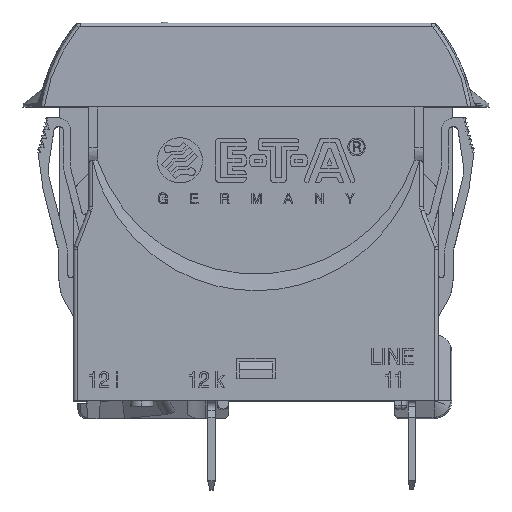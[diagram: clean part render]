
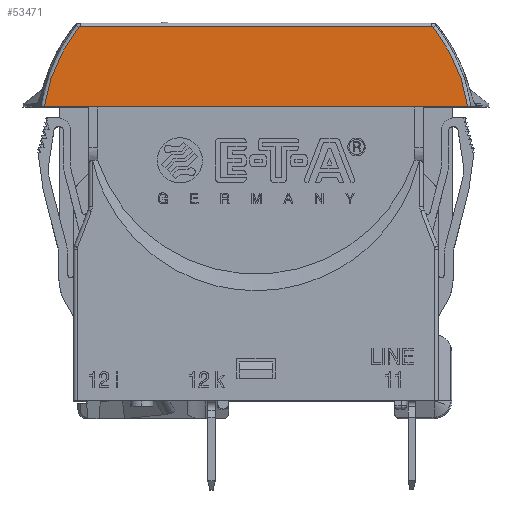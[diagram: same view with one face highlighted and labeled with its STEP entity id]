
A CAD part, top view. The second image highlights one B-rep face of the part: STEP entity #53471.
In plain terms, the highlighted planar face has unit normal (0, 0.018, 1).
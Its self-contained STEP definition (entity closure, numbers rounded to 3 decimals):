
#8388=CARTESIAN_POINT('',(-23.785,33.,12.535));
#8402=DIRECTION('',(1.,0.,0.));
#8403=VECTOR('',#8402,47.569);
#8404=CARTESIAN_POINT('',(-23.785,33.,12.535));
#8405=LINE('',#8404,#8403);
#8418=CARTESIAN_POINT('',(23.785,33.,12.535));
#17072=CARTESIAN_POINT('',(-19.921,41.927,
12.379));
#17073=CARTESIAN_POINT('',(-20.128,41.664,
12.384));
#17074=CARTESIAN_POINT('',(-20.527,41.131,
12.393));
#17075=CARTESIAN_POINT('',(-21.079,40.309,
12.407));
#17076=CARTESIAN_POINT('',(-21.586,39.459,
12.422));
#17077=CARTESIAN_POINT('',(-22.047,38.588,
12.437));
#17078=CARTESIAN_POINT('',(-22.461,37.695,
12.453));
#17079=CARTESIAN_POINT('',(-22.826,36.784,
12.469));
#17080=CARTESIAN_POINT('',(-23.143,35.856,
12.485));
#17081=CARTESIAN_POINT('',(-23.41,34.916,
12.501));
#17082=CARTESIAN_POINT('',(-23.627,33.964,
12.518));
#17083=CARTESIAN_POINT('',(-23.738,33.322,
12.529));
#17084=CARTESIAN_POINT('',(-23.785,33.,
12.535));
#17086=CARTESIAN_POINT('',(-19.75,42.007,
12.378));
#17087=CARTESIAN_POINT('',(-19.758,42.007,
12.378));
#17088=CARTESIAN_POINT('',(-19.775,42.006,
12.378));
#17089=CARTESIAN_POINT('',(-19.799,42.002,
12.378));
#17090=CARTESIAN_POINT('',(-19.822,41.996,
12.378));
#17091=CARTESIAN_POINT('',(-19.845,41.987,
12.378));
#17092=CARTESIAN_POINT('',(-19.866,41.976,
12.378));
#17093=CARTESIAN_POINT('',(-19.886,41.962,
12.378));
#17094=CARTESIAN_POINT('',(-19.904,41.945,
12.379));
#17095=CARTESIAN_POINT('',(-19.915,41.933,
12.379));
#17096=CARTESIAN_POINT('',(-19.921,41.927,
12.379));
#17098=DIRECTION('',(-1.,0.,0.));
#17099=VECTOR('',#17098,39.499);
#17100=CARTESIAN_POINT('',(19.75,42.007,12.378));
#17101=LINE('',#17100,#17099);
#17102=CARTESIAN_POINT('',(19.921,41.927,12.379));
#17103=CARTESIAN_POINT('',(19.916,41.933,12.379));
#17104=CARTESIAN_POINT('',(19.905,41.945,12.379));
#17105=CARTESIAN_POINT('',(19.887,41.96,12.379));
#17106=CARTESIAN_POINT('',(19.868,41.974,12.378));
#17107=CARTESIAN_POINT('',(19.847,41.986,12.378));
#17108=CARTESIAN_POINT('',(19.825,41.995,12.378));
#17109=CARTESIAN_POINT('',(19.801,42.002,12.378));
#17110=CARTESIAN_POINT('',(19.776,42.006,12.378));
#17111=CARTESIAN_POINT('',(19.758,42.007,12.378));
#17112=CARTESIAN_POINT('',(19.75,42.007,12.378));
#17114=CARTESIAN_POINT('',(23.785,33.,12.535));
#17115=CARTESIAN_POINT('',(23.738,33.321,12.529));
#17116=CARTESIAN_POINT('',(23.627,33.959,12.518));
#17117=CARTESIAN_POINT('',(23.411,34.91,12.502));
#17118=CARTESIAN_POINT('',(23.145,35.85,12.485));
#17119=CARTESIAN_POINT('',(22.829,36.776,12.469));
#17120=CARTESIAN_POINT('',(22.464,37.686,12.453));
#17121=CARTESIAN_POINT('',(22.051,38.579,12.438));
#17122=CARTESIAN_POINT('',(21.591,39.452,12.422));
#17123=CARTESIAN_POINT('',(21.083,40.303,12.407));
#17124=CARTESIAN_POINT('',(20.528,41.13,12.393));
#17125=CARTESIAN_POINT('',(20.128,41.664,12.384));
#17126=CARTESIAN_POINT('',(19.921,41.927,12.379));
#28645=VERTEX_POINT('',#8388);
#28647=VERTEX_POINT('',#17072);
#28648=VERTEX_POINT('',#17086);
#28649=CARTESIAN_POINT('',(19.75,42.007,12.378));
#28650=VERTEX_POINT('',#28649);
#28651=VERTEX_POINT('',#17102);
#28653=VERTEX_POINT('',#8418);
#53454=CARTESIAN_POINT('',(-25.205,35.,12.5));
#53455=DIRECTION('',(0.,0.017,1.));
#53456=DIRECTION('',(1.,0.,0.));
#53457=AXIS2_PLACEMENT_3D('',#53454,#53455,#53456);
#53458=PLANE('',#53457);
#53460=ORIENTED_EDGE('',*,*,#53459,.F.);
#53462=ORIENTED_EDGE('',*,*,#53461,.F.);
#53464=ORIENTED_EDGE('',*,*,#53463,.F.);
#53465=ORIENTED_EDGE('',*,*,#53444,.F.);
#53467=ORIENTED_EDGE('',*,*,#53466,.F.);
#53468=ORIENTED_EDGE('',*,*,#42496,.F.);
#53469=EDGE_LOOP('',(#53460,#53462,#53464,#53465,#53467,#53468));
#53470=FACE_OUTER_BOUND('',#53469,.F.);
#17085=B_SPLINE_CURVE_WITH_KNOTS('',3,(#17072,#17073,#17074,#17075,#17076,
#17077,#17078,#17079,#17080,#17081,#17082,#17083,#17084),.UNSPECIFIED.,.F.,.F.,(
4,1,1,1,1,1,1,1,1,1,4),(0.,0.1,0.2,0.3,0.4,0.5,0.6,0.7,0.8,
0.9,1.),.UNSPECIFIED.);
#17097=B_SPLINE_CURVE_WITH_KNOTS('',3,(#17086,#17087,#17088,#17089,#17090,
#17091,#17092,#17093,#17094,#17095,#17096),.UNSPECIFIED.,.F.,.F.,(4,1,1,1,1,1,1,
1,4),(0.,0.125,0.25,0.375,0.5,0.625,0.75,0.875,1.),
.UNSPECIFIED.);
#17113=B_SPLINE_CURVE_WITH_KNOTS('',3,(#17102,#17103,#17104,#17105,#17106,
#17107,#17108,#17109,#17110,#17111,#17112),.UNSPECIFIED.,.F.,.F.,(4,1,1,1,1,1,1,
1,4),(0.,0.125,0.25,0.375,0.5,0.625,0.75,0.875,1.),
.UNSPECIFIED.);
#17127=B_SPLINE_CURVE_WITH_KNOTS('',3,(#17114,#17115,#17116,#17117,#17118,
#17119,#17120,#17121,#17122,#17123,#17124,#17125,#17126),.UNSPECIFIED.,.F.,.F.,(
4,1,1,1,1,1,1,1,1,1,4),(0.,0.1,0.2,0.3,0.4,0.5,0.6,0.7,0.8,
0.9,1.),.UNSPECIFIED.);
#42496=EDGE_CURVE('',#28645,#28653,#8405,.T.);
#53444=EDGE_CURVE('',#28651,#28650,#17113,.T.);
#53459=EDGE_CURVE('',#28647,#28645,#17085,.T.);
#53461=EDGE_CURVE('',#28648,#28647,#17097,.T.);
#53463=EDGE_CURVE('',#28650,#28648,#17101,.T.);
#53466=EDGE_CURVE('',#28653,#28651,#17127,.T.);
#53471=ADVANCED_FACE('',(#53470),#53458,.T.);
